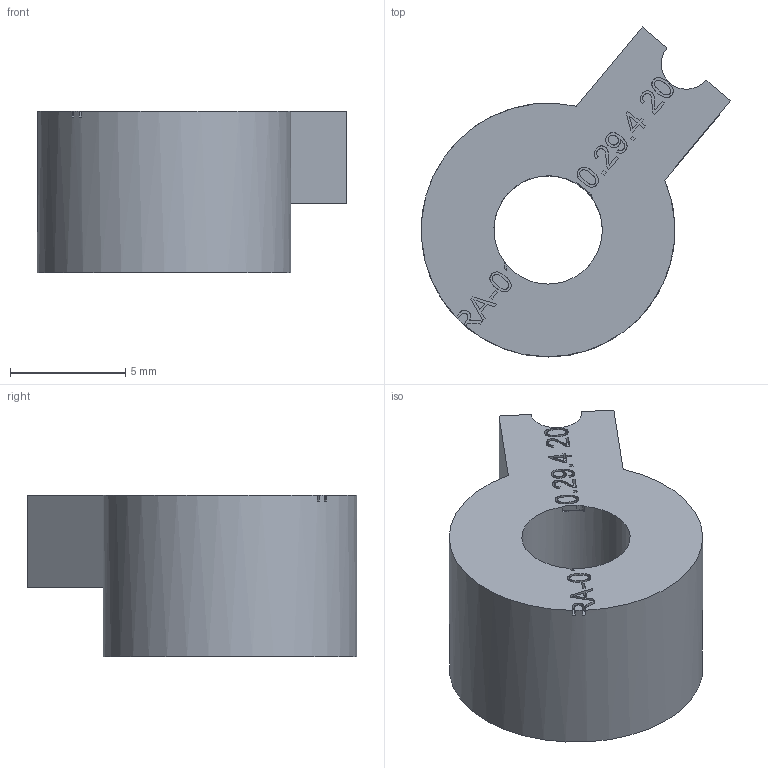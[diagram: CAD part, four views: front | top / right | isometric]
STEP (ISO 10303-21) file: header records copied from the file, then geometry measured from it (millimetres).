
FILE_DESCRIPTION(('Open CASCADE Model'),'2;1');
FILE_NAME('Open CASCADE Shape Model','2026-07-23T16:04:21',('Author'),( 'Open CASCADE'),'Open CASCADE STEP processor 7.9','build123d', 'Unknown');
FILE_SCHEMA(('AUTOMOTIVE_DESIGN { 1 0 10303 214 1 1 1 1 }'));
Length unit declared in the file: millimetre
Products named in the file (2): =>[0:1:1:2]; COMPOUND
Assembly tree (1 placements, depth 2):
  =>[0:1:1:2]
    COMPOUND
Bounding box: 13.42 x 14.3 x 7 mm (x, y, z)
Volume: 616.9 mm3; surface area: 588.7 mm2
Topology: 1 solids, 1 shells, 236 faces, 651 edges, 434 vertices
Faces by surface type: extrusion 149, plane 84, cylinder 3
Full cylindrical faces by diameter (mm): 4.7 x1, 11 x1
Entity records: 17849 total; most frequent: CARTESIAN_POINT 6376, DIRECTION 1412, ORIENTED_EDGE 1302, PCURVE 1302, DEFINITIONAL_REPRESENTATION 1302, VECTOR 1186, LINE 1037, B_SPLINE_CURVE_WITH_KNOTS 1033
